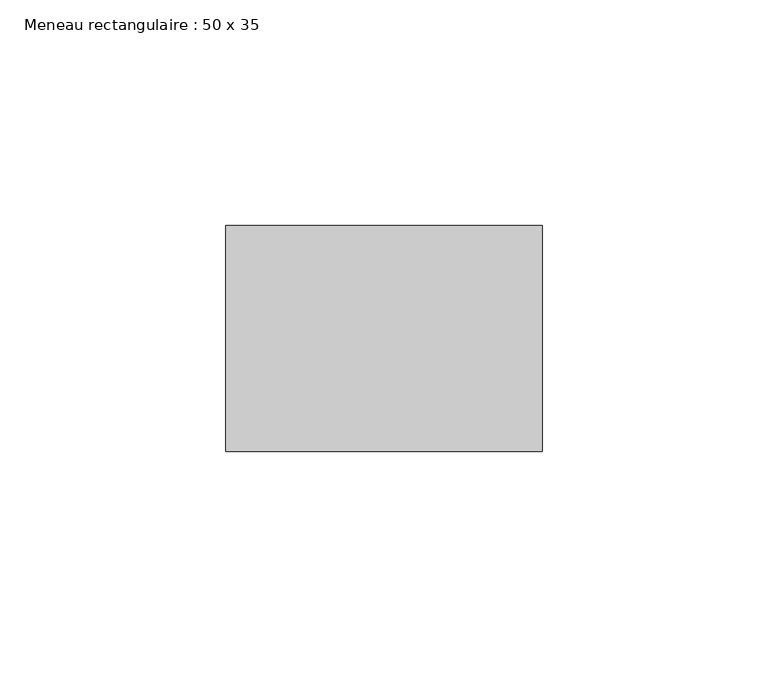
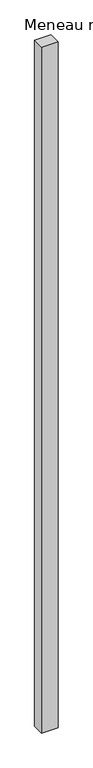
"""IFC4 building model written with IfcOpenShell, lengths in millimetres: member geometry, Meneau rectangulaire : 50 x 35."""

from ifc_helpers import new_model, si_unit, frame, origin, place, context, project, spatial, polyline, outline, extrude, source, transform, mapped, element, save


def meneau_rectangulaire_50_x_35_ba64f533(model_context):
    return source(origin(), model_context, "Body", "SweptSolid", [
        extrude(outline(polyline([(0.0, 0.0), (0.0, -50.0), (-70.0, -50.0), (-70.0, 0.0), (0.0, 0.0)])), frame((0.0, 0.0, -3066.0), z_axis=(0.0, 0.0, 1.0), x_axis=(1.0, 0.0, 0.0)), (0.0, 0.0, 1.0), 3066.0),
    ])


if __name__ == "__main__":
    model = new_model("IFC4")
    model_context = context("Model", 3, world=origin())
    ifc_project = project(units=[si_unit("LENGTHUNIT", "METRE", prefix="MILLI")], contexts=[model_context])
    site = spatial("IfcSite", under=ifc_project)
    building = spatial("IfcBuilding", under=site)
    placement = place(None, origin())
    meneau_rectangulaire_50_x_35_shape = meneau_rectangulaire_50_x_35_ba64f533(model_context)
    element("IfcMember", 1, ObjectType="Meneau rectangulaire : 50 x 35", at=placement, inside=building, context=model_context, shape_type="MappedRepresentation", body=[
        mapped(meneau_rectangulaire_50_x_35_shape, transform((0.0, 0.0, 0.0), x_axis=(1.0, 0.0, 0.0), y_axis=(0.0, 1.0, 0.0), z_axis=(0.0, 0.0, 1.0))),
    ])
    save(model, "model.ifc")
